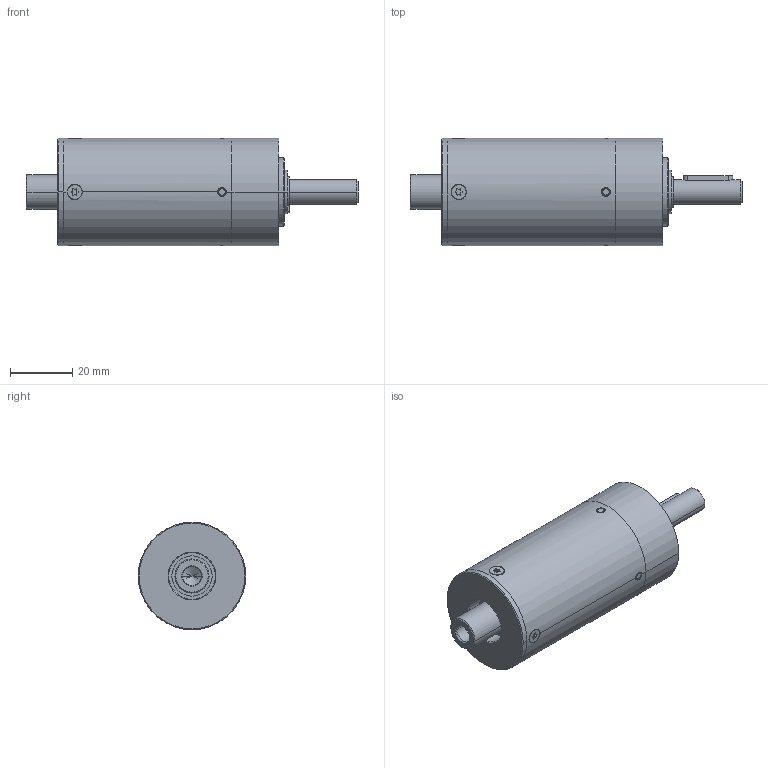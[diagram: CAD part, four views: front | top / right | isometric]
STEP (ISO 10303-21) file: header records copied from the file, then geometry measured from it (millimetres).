
FILE_DESCRIPTION((''),'2;1');
FILE_NAME('IMS35_PRO_MAX_3_STAGE_ASM','2023-07-27T11:59:39',('mhummel'),(''),'CREO PARAMETRIC BY PTC INC, 2020184','CREO PARAMETRIC BY PTC INC, 2020184','');
FILE_SCHEMA(('AUTOMOTIVE_DESIGN { 1 0 10303 214 1 1 1 1 }'));
Length unit declared in the file: millimetre
Products named in the file (16): IMS35_PRO_MAX_BEARING_FLANGE; IMS35_PRO_MAX_BALL_BEARING; IMS35_PRO_MAX_RING_GEAR_3; IMS35_PRO_MAX_CYLINDER_PIN; IMS35_PRO_MAX_RING_GEAR_3_STAGE_ASM; IMS35_PRO_MAX_MOTOR_FLANGE; IMS35_PRO_MAX_SHAFT_RAW_AF0; IMS35_PRO_MAX_SHAFT_ASM; IMS35_PRO_MAX_SHIM_RING; IMS35_PRO_MAX_RETAINING_RING_A; IMS35_PRO_MAX_FEATHER_KEY; IMS35_PRO_MAX_THRUST_WASHER; IMS35_PRO_MAX_SCREW; IMS35_PRO_MAX_MO_PINION_LONG; IMS35_PRO_MAX_MO_PINION_SHORT; IMS35_PRO_MAX_3_STAGE_ASM
Assembly tree (22 placements, depth 3):
  IMS35_PRO_MAX_3_STAGE_ASM
    IMS35_PRO_MAX_BEARING_FLANGE
    IMS35_PRO_MAX_BALL_BEARING  x2
    IMS35_PRO_MAX_RING_GEAR_3_STAGE_ASM
      IMS35_PRO_MAX_RING_GEAR_3
      IMS35_PRO_MAX_CYLINDER_PIN  x4
    IMS35_PRO_MAX_MOTOR_FLANGE
    IMS35_PRO_MAX_SHAFT_ASM
      IMS35_PRO_MAX_SHAFT_RAW_AF0
    IMS35_PRO_MAX_SHIM_RING
    IMS35_PRO_MAX_RETAINING_RING_A
    IMS35_PRO_MAX_FEATHER_KEY
    IMS35_PRO_MAX_THRUST_WASHER
    IMS35_PRO_MAX_SCREW  x4
    IMS35_PRO_MAX_MO_PINION_LONG
    IMS35_PRO_MAX_MO_PINION_SHORT
Bounding box: 106.95 x 34.6 x 34.6 mm (x, y, z)
Volume: 47196.8 mm3; surface area: 30549.1 mm2
Topology: 24 solids, 26 shells, 446 faces, 1025 edges, 626 vertices
Faces by surface type: cylinder 198, plane 120, cone 70, torus 42, revolution 16
Entity records: 11734 total; most frequent: CARTESIAN_POINT 1908, DIRECTION 1527, ORIENTED_EDGE 1258, PRESENTATION_STYLE_ASSIGNMENT 708, STYLED_ITEM 704, CURVE_STYLE 633, AXIS2_PLACEMENT_3D 629, EDGE_CURVE 629
